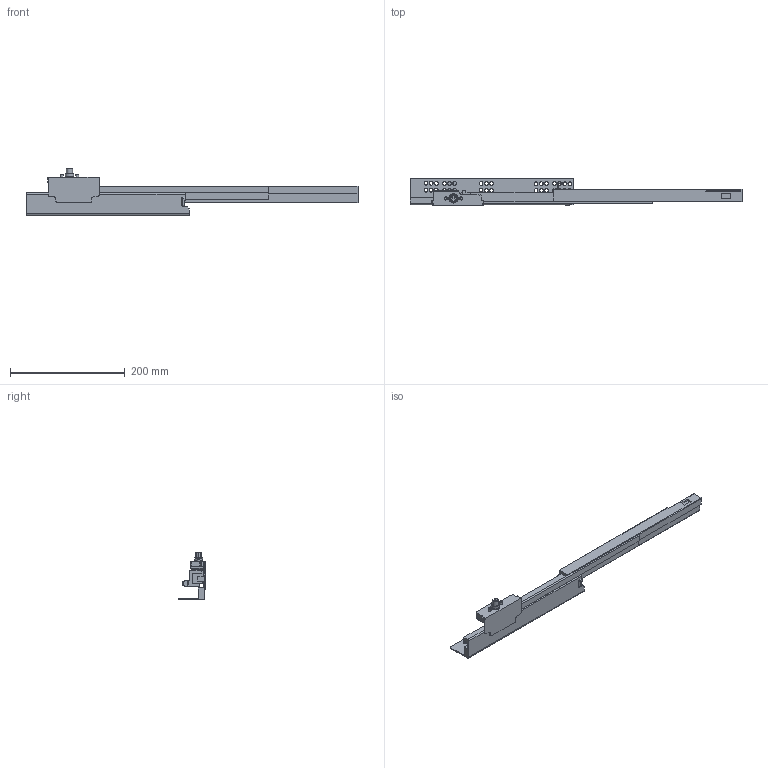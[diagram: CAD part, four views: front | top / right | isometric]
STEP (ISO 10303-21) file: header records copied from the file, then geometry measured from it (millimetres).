
FILE_DESCRIPTION (( 'STEP AP203' ), '1' );
FILE_NAME ('TF10350H-R-DTC3D-open.STEP', '2021-06-05T03:02:19', ( 'df' ), ( 'Microsoft' ), 'SwSTEP 2.0', 'SolidWorks 2018', '' );
FILE_SCHEMA (( 'CONFIG_CONTROL_DESIGN' ));
Length unit declared in the file: millimetre
Products named in the file (1): TF10350H-R-DTC3D-open
Bounding box: 579.3 x 48 x 83.3 mm (x, y, z)
Volume: 363879.5 mm3; surface area: 109734.2 mm2
Topology: 1 solids, 4 shells, 584 faces, 1459 edges, 888 vertices
Faces by surface type: cylinder 240, plane 176, bspline 102, cone 64, sphere 2
Entity records: 19551 total; most frequent: CARTESIAN_POINT 5782, ORIENTED_EDGE 2900, DIRECTION 2865, EDGE_CURVE 1450, AXIS2_PLACEMENT_3D 1067, VERTEX_POINT 888, LINE 731, VECTOR 731
